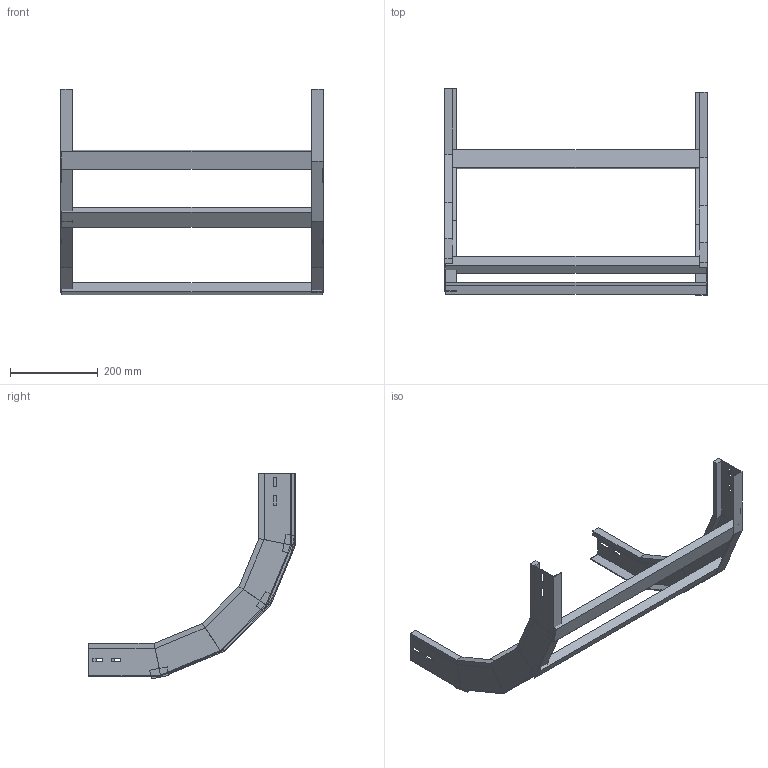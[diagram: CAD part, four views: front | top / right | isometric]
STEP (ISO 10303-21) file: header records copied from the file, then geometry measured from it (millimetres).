
FILE_DESCRIPTION (( 'STEP AP214' ), '1' );
FILE_NAME ('A2X30B3C600XX.step', '2025-04-02T08:46:16', ( '' ), ( '' ), 'SwSTEP 2.0', 'SolidWorks 2023', '' );
FILE_SCHEMA (( 'AUTOMOTIVE_DESIGN' ));
Length unit declared in the file: millimetre
Products named in the file (3): A2X30B3C600XX; TRAVERSINO_600; LONGH.SALITA_90°_H75_R300
Assembly tree (5 placements, depth 2):
  A2X30B3C600XX
    LONGH.SALITA_90°_H75_R300  x2
    TRAVERSINO_600  x3
Bounding box: 600 x 472.38 x 470.38 mm (x, y, z)
Volume: 1993191.7 mm3; surface area: 561474.2 mm2
Topology: 5 solids, 5 shells, 134 faces, 308 edges, 184 vertices
Faces by surface type: plane 134
Entity records: 1864 total; most frequent: CARTESIAN_POINT 308, ORIENTED_EDGE 296, DIRECTION 292, EDGE_CURVE 148, LINE 148, VECTOR 148, VERTEX_POINT 88, EDGE_LOOP 72
